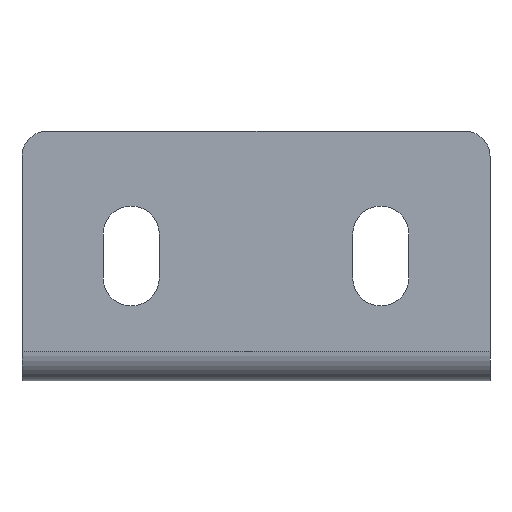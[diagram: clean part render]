
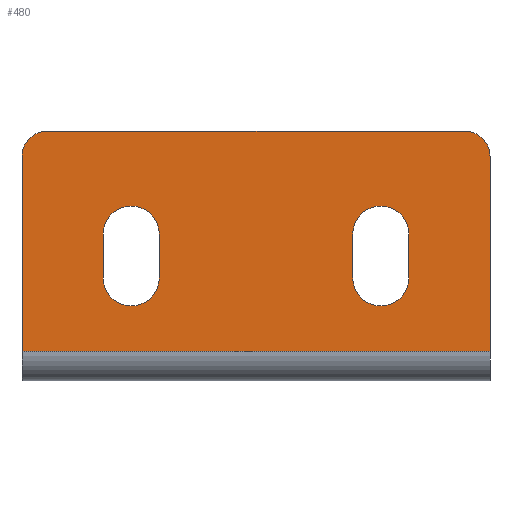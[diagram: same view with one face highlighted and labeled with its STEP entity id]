
A CAD part, front view. The second image highlights one B-rep face of the part: STEP entity #480.
In plain terms, the highlighted planar face has unit normal (0, -1, 0).
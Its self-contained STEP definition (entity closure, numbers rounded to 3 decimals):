
#18 = LINE ( 'NONE', #278, #21 ) ;
#19 = CIRCLE ( 'NONE', #1015, 4.5 ) ;
#20 = LINE ( 'NONE', #303, #23 ) ;
#21 = VECTOR ( 'NONE', #315, 1000. ) ;
#22 = CIRCLE ( 'NONE', #1016, 4. ) ;
#23 = VECTOR ( 'NONE', #297, 1000. ) ;
#24 = LINE ( 'NONE', #272, #513 ) ;
#27 = LINE ( 'NONE', #313, #28 ) ;
#28 = VECTOR ( 'NONE', #318, 1000. ) ;
#47 = EDGE_LOOP ( 'NONE', ( #870, #807, #907, #804, #891, #875 ) ) ;
#51 = EDGE_LOOP ( 'NONE', ( #533, #542, #540, #859, #863 ) ) ;
#57 = CARTESIAN_POINT ( 'NONE',  ( 24.5, 0., 23.5 ) ) ;
#58 = DIRECTION ( 'NONE',  ( 0., 0., -1. ) ) ;
#96 = CIRCLE ( 'NONE', #1001, 4.5 ) ;
#100 = CIRCLE ( 'NONE', #1002, 4.5 ) ;
#145 = CARTESIAN_POINT ( 'NONE',  ( -20., 0., 28. ) ) ;
#181 = CARTESIAN_POINT ( 'NONE',  ( 37.5, 0., 4.737 ) ) ;
#187 = CARTESIAN_POINT ( 'NONE',  ( -15.5, 0., 23.5 ) ) ;
#190 = CARTESIAN_POINT ( 'NONE',  ( 20., 0., 28. ) ) ;
#203 = CARTESIAN_POINT ( 'NONE',  ( 24.5, 0., 23.5 ) ) ;
#207 = CARTESIAN_POINT ( 'NONE',  ( 33.5, 0., 40. ) ) ;
#212 = CARTESIAN_POINT ( 'NONE',  ( -24.5, 0., 16.5 ) ) ;
#213 = CARTESIAN_POINT ( 'NONE',  ( -15.5, 0., 16.5 ) ) ;
#221 = CARTESIAN_POINT ( 'NONE',  ( -37.5, 0., 36. ) ) ;
#225 = CARTESIAN_POINT ( 'NONE',  ( 15.5, 0., 23.5 ) ) ;
#227 = CARTESIAN_POINT ( 'NONE',  ( -37.5, 0., 4.737 ) ) ;
#229 = CARTESIAN_POINT ( 'NONE',  ( 15.5, 0., 16.5 ) ) ;
#232 = CARTESIAN_POINT ( 'NONE',  ( 37.5, 0., 36. ) ) ;
#234 = CARTESIAN_POINT ( 'NONE',  ( -33.5, 0., 40. ) ) ;
#237 = CARTESIAN_POINT ( 'NONE',  ( 24.5, 0., 16.5 ) ) ;
#242 = CARTESIAN_POINT ( 'NONE',  ( -24.5, 0., 23.5 ) ) ;
#270 = DIRECTION ( 'NONE',  ( 0., 0., -1. ) ) ;
#271 = DIRECTION ( 'NONE',  ( 0., 0., 1. ) ) ;
#272 = CARTESIAN_POINT ( 'NONE',  ( 37.5, 0., 4.737 ) ) ;
#274 = CARTESIAN_POINT ( 'NONE',  ( -20., 0., 16.5 ) ) ;
#275 = DIRECTION ( 'NONE',  ( -1., 0., 0. ) ) ;
#276 = DIRECTION ( 'NONE',  ( 0., 0., -1. ) ) ;
#278 = CARTESIAN_POINT ( 'NONE',  ( -24.5, 0., 23.5 ) ) ;
#279 = DIRECTION ( 'NONE',  ( 0., -1., 0. ) ) ;
#282 = DIRECTION ( 'NONE',  ( 0., 1., 0. ) ) ;
#284 = DIRECTION ( 'NONE',  ( 0., 1., 0. ) ) ;
#286 = DIRECTION ( 'NONE',  ( 0., 0., -1. ) ) ;
#289 = DIRECTION ( 'NONE',  ( 0., 0., -1. ) ) ;
#290 = DIRECTION ( 'NONE',  ( 0., 0., -1. ) ) ;
#294 = CARTESIAN_POINT ( 'NONE',  ( 15.5, 0., 23.5 ) ) ;
#297 = DIRECTION ( 'NONE',  ( 0., 0., 1. ) ) ;
#299 = CARTESIAN_POINT ( 'NONE',  ( -15.5, 0., 23.5 ) ) ;
#300 = CARTESIAN_POINT ( 'NONE',  ( 20., 0., 16.5 ) ) ;
#302 = CARTESIAN_POINT ( 'NONE',  ( 33.5, 0., 36. ) ) ;
#303 = CARTESIAN_POINT ( 'NONE',  ( -37.5, 0., 0. ) ) ;
#304 = DIRECTION ( 'NONE',  ( 0., -1., 0. ) ) ;
#306 = CARTESIAN_POINT ( 'NONE',  ( -33.5, 0., 36. ) ) ;
#310 = DIRECTION ( 'NONE',  ( 0., 1., 0. ) ) ;
#311 = DIRECTION ( 'NONE',  ( 0., 1., 0. ) ) ;
#313 = CARTESIAN_POINT ( 'NONE',  ( 37.5, 0., 40. ) ) ;
#315 = DIRECTION ( 'NONE',  ( 0., 0., 1. ) ) ;
#316 = CARTESIAN_POINT ( 'NONE',  ( -20., 0., 23.5 ) ) ;
#318 = DIRECTION ( 'NONE',  ( -1., 0., 0. ) ) ;
#319 = DIRECTION ( 'NONE',  ( 0., 0., -1. ) ) ;
#320 = CARTESIAN_POINT ( 'NONE',  ( 20., 0., 23.5 ) ) ;
#322 = DIRECTION ( 'NONE',  ( 0., 0., -1. ) ) ;
#332 = DIRECTION ( 'NONE',  ( 0., 0., -1. ) ) ;
#354 = DIRECTION ( 'NONE',  ( 0., -1., 0. ) ) ;
#362 = CARTESIAN_POINT ( 'NONE',  ( 37.5, 0., 0. ) ) ;
#374 = PLANE ( 'NONE',  #966 ) ;
#480 = ADVANCED_FACE ( 'NONE', ( #876, #817, #780 ), #374, .T. ) ;
#513 = VECTOR ( 'NONE', #275, 1000. ) ;
#530 = CIRCLE ( 'NONE', #1017, 4. ) ;
#533 = ORIENTED_EDGE ( 'NONE', *, *, #588, .T. ) ;
#540 = ORIENTED_EDGE ( 'NONE', *, *, #589, .T. ) ;
#542 = ORIENTED_EDGE ( 'NONE', *, *, #563, .T. ) ;
#554 = EDGE_CURVE ( 'NONE', #810, #1168, #681, .T. ) ;
#560 = EDGE_CURVE ( 'NONE', #746, #838, #96, .T. ) ;
#563 = EDGE_CURVE ( 'NONE', #845, #930, #100, .T. ) ;
#586 = EDGE_CURVE ( 'NONE', #1143, #1170, #27, .T. ) ;
#588 = EDGE_CURVE ( 'NONE', #1157, #845, #940, .T. ) ;
#589 = EDGE_CURVE ( 'NONE', #930, #1174, #939, .T. ) ;
#590 = EDGE_CURVE ( 'NONE', #1174, #1165, #946, .T. ) ;
#591 = EDGE_CURVE ( 'NONE', #1165, #1157, #944, .T. ) ;
#592 = EDGE_CURVE ( 'NONE', #1181, #746, #945, .T. ) ;
#593 = EDGE_CURVE ( 'NONE', #838, #1136, #947, .T. ) ;
#594 = EDGE_CURVE ( 'NONE', #1136, #1139, #19, .T. ) ;
#595 = EDGE_CURVE ( 'NONE', #1139, #1181, #18, .T. ) ;
#596 = EDGE_CURVE ( 'NONE', #1170, #1149, #22, .T. ) ;
#597 = EDGE_CURVE ( 'NONE', #1160, #1149, #20, .T. ) ;
#598 = EDGE_CURVE ( 'NONE', #810, #1160, #24, .T. ) ;
#599 = EDGE_CURVE ( 'NONE', #1168, #1143, #530, .T. ) ;
#681 = LINE ( 'NONE', #1095, #694 ) ;
#694 = VECTOR ( 'NONE', #1051, 1000. ) ;
#746 = VERTEX_POINT ( 'NONE', #145 ) ;
#780 = FACE_OUTER_BOUND ( 'NONE', #47, .T. ) ;
#795 = ORIENTED_EDGE ( 'NONE', *, *, #594, .T. ) ;
#800 = ORIENTED_EDGE ( 'NONE', *, *, #593, .T. ) ;
#804 = ORIENTED_EDGE ( 'NONE', *, *, #598, .F. ) ;
#807 = ORIENTED_EDGE ( 'NONE', *, *, #596, .T. ) ;
#810 = VERTEX_POINT ( 'NONE', #181 ) ;
#811 = ORIENTED_EDGE ( 'NONE', *, *, #592, .T. ) ;
#817 = FACE_BOUND ( 'NONE', #1147, .T. ) ;
#838 = VERTEX_POINT ( 'NONE', #187 ) ;
#845 = VERTEX_POINT ( 'NONE', #190 ) ;
#859 = ORIENTED_EDGE ( 'NONE', *, *, #590, .T. ) ;
#863 = ORIENTED_EDGE ( 'NONE', *, *, #591, .T. ) ;
#870 = ORIENTED_EDGE ( 'NONE', *, *, #586, .T. ) ;
#875 = ORIENTED_EDGE ( 'NONE', *, *, #599, .T. ) ;
#876 = FACE_BOUND ( 'NONE', #51, .T. ) ;
#891 = ORIENTED_EDGE ( 'NONE', *, *, #554, .T. ) ;
#892 = ORIENTED_EDGE ( 'NONE', *, *, #595, .T. ) ;
#897 = ORIENTED_EDGE ( 'NONE', *, *, #560, .T. ) ;
#907 = ORIENTED_EDGE ( 'NONE', *, *, #597, .F. ) ;
#930 = VERTEX_POINT ( 'NONE', #203 ) ;
#939 = LINE ( 'NONE', #57, #942 ) ;
#940 = CIRCLE ( 'NONE', #1012, 4.5 ) ;
#941 = VECTOR ( 'NONE', #270, 1000. ) ;
#942 = VECTOR ( 'NONE', #58, 1000. ) ;
#943 = VECTOR ( 'NONE', #271, 1000. ) ;
#944 = LINE ( 'NONE', #294, #943 ) ;
#945 = CIRCLE ( 'NONE', #1014, 4.5 ) ;
#946 = CIRCLE ( 'NONE', #1013, 4.5 ) ;
#947 = LINE ( 'NONE', #299, #941 ) ;
#966 = AXIS2_PLACEMENT_3D ( 'NONE', #362, #354, #332 ) ;
#1001 = AXIS2_PLACEMENT_3D ( 'NONE', #1086, #1060, #1131 ) ;
#1002 = AXIS2_PLACEMENT_3D ( 'NONE', #1112, #1098, #1130 ) ;
#1012 = AXIS2_PLACEMENT_3D ( 'NONE', #320, #284, #286 ) ;
#1013 = AXIS2_PLACEMENT_3D ( 'NONE', #300, #310, #322 ) ;
#1014 = AXIS2_PLACEMENT_3D ( 'NONE', #316, #282, #290 ) ;
#1015 = AXIS2_PLACEMENT_3D ( 'NONE', #274, #311, #289 ) ;
#1016 = AXIS2_PLACEMENT_3D ( 'NONE', #306, #279, #276 ) ;
#1017 = AXIS2_PLACEMENT_3D ( 'NONE', #302, #304, #319 ) ;
#1051 = DIRECTION ( 'NONE',  ( 0., 0., 1. ) ) ;
#1060 = DIRECTION ( 'NONE',  ( 0., 1., 0. ) ) ;
#1086 = CARTESIAN_POINT ( 'NONE',  ( -20., 0., 23.5 ) ) ;
#1095 = CARTESIAN_POINT ( 'NONE',  ( 37.5, 0., 0. ) ) ;
#1098 = DIRECTION ( 'NONE',  ( 0., 1., 0. ) ) ;
#1112 = CARTESIAN_POINT ( 'NONE',  ( 20., 0., 23.5 ) ) ;
#1130 = DIRECTION ( 'NONE',  ( 0., 0., -1. ) ) ;
#1131 = DIRECTION ( 'NONE',  ( 0., 0., -1. ) ) ;
#1136 = VERTEX_POINT ( 'NONE', #213 ) ;
#1139 = VERTEX_POINT ( 'NONE', #212 ) ;
#1143 = VERTEX_POINT ( 'NONE', #207 ) ;
#1147 = EDGE_LOOP ( 'NONE', ( #811, #897, #800, #795, #892 ) ) ;
#1149 = VERTEX_POINT ( 'NONE', #221 ) ;
#1157 = VERTEX_POINT ( 'NONE', #225 ) ;
#1160 = VERTEX_POINT ( 'NONE', #227 ) ;
#1165 = VERTEX_POINT ( 'NONE', #229 ) ;
#1168 = VERTEX_POINT ( 'NONE', #232 ) ;
#1170 = VERTEX_POINT ( 'NONE', #234 ) ;
#1174 = VERTEX_POINT ( 'NONE', #237 ) ;
#1181 = VERTEX_POINT ( 'NONE', #242 ) ;
